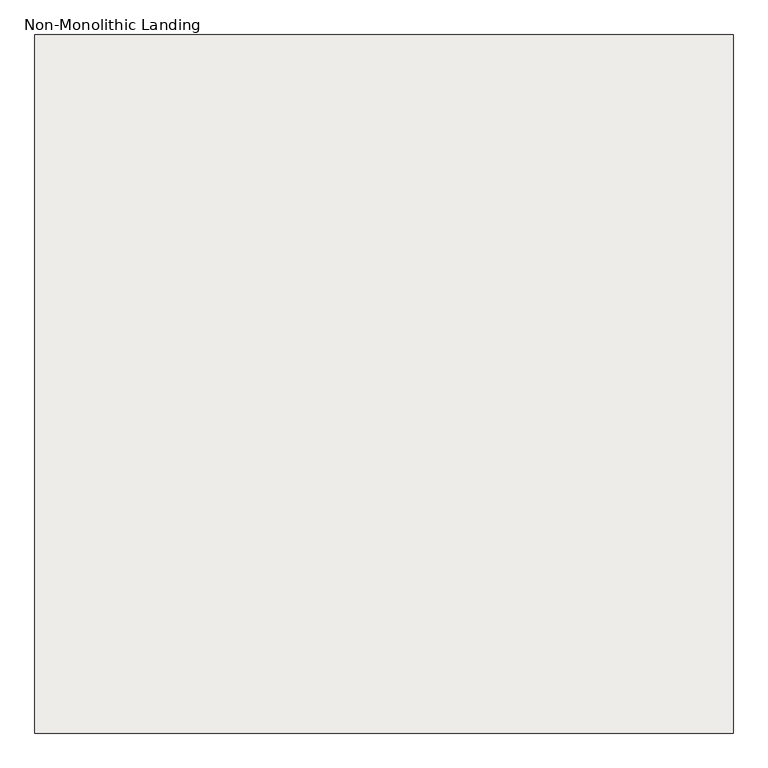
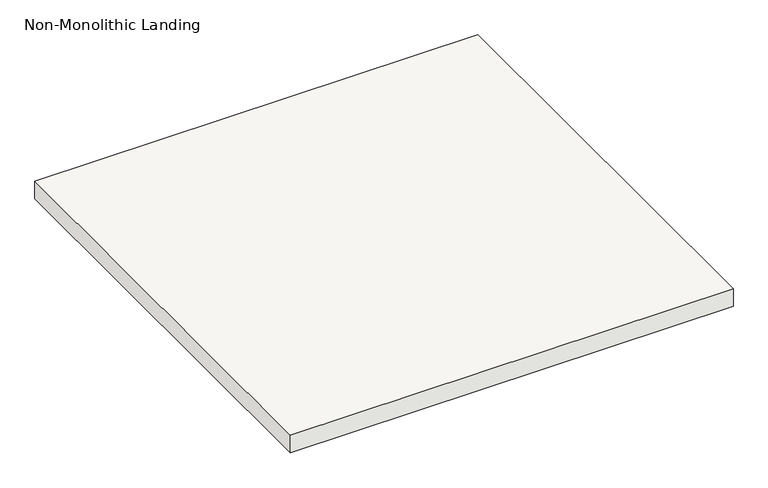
"""IFC4 building model written with IfcOpenShell, lengths in millimetres: slab geometry, Non-Monolithic Landing."""

from ifc_helpers import new_model, si_unit, frame, origin, place, context, project, spatial, polyline, outline, extrude, source, transform, mapped, element, save


def non_monolithic_landing_cc45a5ca(model_context):
    return source(origin(), model_context, "Body", "SweptSolid", [
        extrude(outline(polyline([(-98897.8719448, 36978.2777512), (-100097.8719448, 36978.2777512), (-100097.8719448, 38178.2777512), (-98897.8719448, 38178.2777512), (-98897.8719448, 36978.2777512)])), frame((0.0, 0.0, 43597.5), z_axis=(0.0, 0.0, 1.0), x_axis=(1.0, 0.0, 0.0)), (0.0, 0.0, 1.0), 50.0),
    ])


if __name__ == "__main__":
    model = new_model("IFC4")
    model_context = context("Model", 3, world=origin())
    ifc_project = project(units=[si_unit("LENGTHUNIT", "METRE", prefix="MILLI")], contexts=[model_context])
    site = spatial("IfcSite", under=ifc_project)
    building = spatial("IfcBuilding", under=site)
    placement = place(None, origin())
    non_monolithic_landing_shape = non_monolithic_landing_cc45a5ca(model_context)
    element("IfcSlab", 1, ObjectType="Non-Monolithic Landing", at=placement, inside=building, context=model_context, shape_type="MappedRepresentation", body=[
        mapped(non_monolithic_landing_shape, transform((0.0, 0.0, 0.0), x_axis=(1.0, 0.0, 0.0), y_axis=(0.0, 1.0, 0.0), z_axis=(0.0, 0.0, 1.0))),
    ])
    save(model, "model.ifc")
